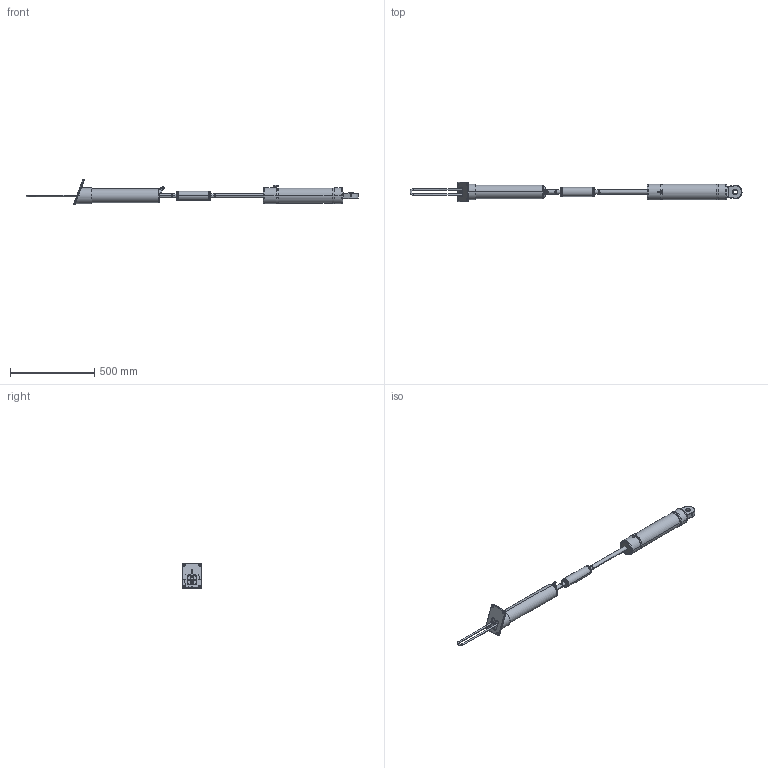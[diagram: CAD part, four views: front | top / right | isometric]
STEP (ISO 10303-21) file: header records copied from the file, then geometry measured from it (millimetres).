
FILE_DESCRIPTION (( 'STEP AP203' ), '1' );
FILE_NAME ('PT_070_S_0260.STEP', '2018-06-01T16:06:05', ( 'utente' ), ( 'Hewlett-Packard Company' ), 'SwSTEP 2.0', 'SolidWorks 2015', '' );
FILE_SCHEMA (( 'CONFIG_CONTROL_DESIGN' ));
Length unit declared in the file: millimetre
Products named in the file (1): PT_070_S_0260
Bounding box: 1975.9 x 115 x 153.21 mm (x, y, z)
Volume: 6886826.3 mm3; surface area: 434630.6 mm2
Topology: 1 solids, 1 shells, 359 faces, 848 edges, 507 vertices
Faces by surface type: plane 122, cylinder 108, cone 66, torus 51, bspline 8, sphere 4
Entity records: 11085 total; most frequent: CARTESIAN_POINT 2804, DIRECTION 1788, ORIENTED_EDGE 1690, EDGE_CURVE 845, AXIS2_PLACEMENT_3D 714, VERTEX_POINT 506, EDGE_LOOP 389, CIRCLE 362
